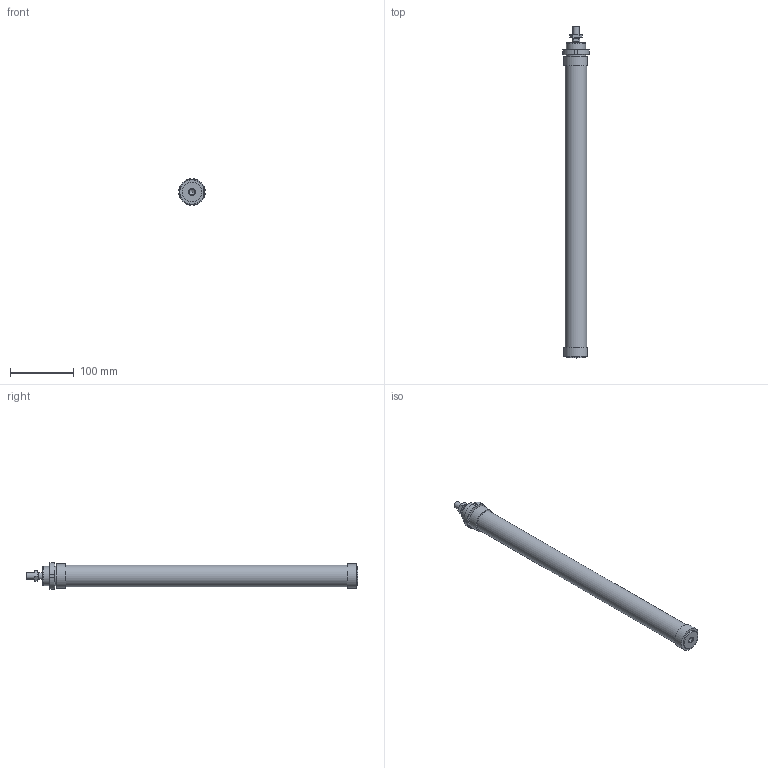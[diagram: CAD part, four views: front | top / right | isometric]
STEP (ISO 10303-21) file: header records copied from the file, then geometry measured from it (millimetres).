
FILE_DESCRIPTION((''),'2;1');
FILE_NAME('I:\Area Tecnica\Disegni\VARIE-3D\Componenti\1280\1281_##_####_#\1281_32_0400.iam.stp','2009-06-04T09:41:32',(''),(''),'Autodesk Inventor 2010','Autodesk Inventor 2010','');
FILE_SCHEMA(('AUTOMOTIVE_DESIGN { 1 0 10303 214 1 1 1 1 }'));
Length unit declared in the file: millimetre
Products named in the file (5): 1281_32_0400; C1281_32_400; S1280_32_400; 1200_32_05; 1200_32_06
Assembly tree (4 placements, depth 2):
  1281_32_0400
    C1281_32_400
    S1280_32_400
    1200_32_05
    1200_32_06
Bounding box: 41.7 x 519.5 x 41.7 mm (x, y, z)
Volume: 446957.4 mm3; surface area: 93650.9 mm2
Topology: 4 solids, 4 shells, 88 faces, 195 edges, 124 vertices
Faces by surface type: plane 39, cone 22, bspline 14, cylinder 13
Full cylindrical faces by diameter (mm): 8.8 x1, 10 x1, 12 x2, 30 x2, 33.6 x1
Entity records: 2663 total; most frequent: CARTESIAN_POINT 675, DIRECTION 362, ORIENTED_EDGE 338, EDGE_CURVE 169, AXIS2_PLACEMENT_3D 150, EDGE_LOOP 122, VERTEX_POINT 119, STYLED_ITEM 92
